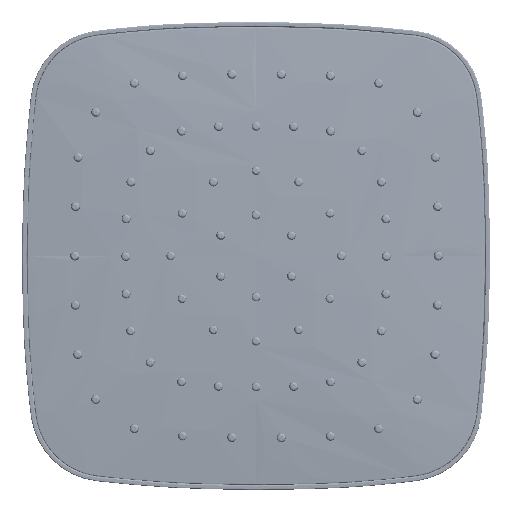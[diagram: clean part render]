
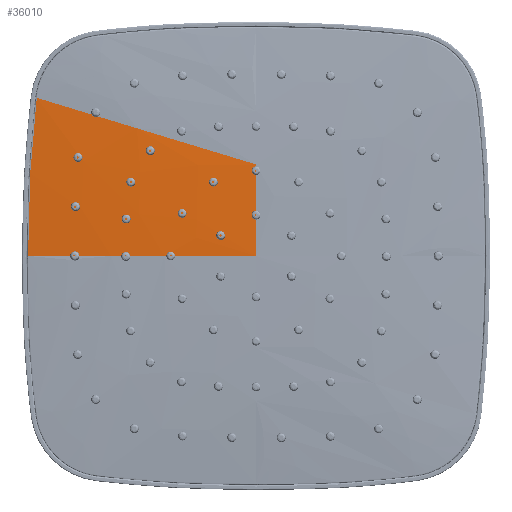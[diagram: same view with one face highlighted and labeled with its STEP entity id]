
A CAD part, front view. The second image highlights one B-rep face of the part: STEP entity #36010.
In plain terms, the highlighted free-form (B-spline) face has degree [3, 3] with [6, 4] control points.
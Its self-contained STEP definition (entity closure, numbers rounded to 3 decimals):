
#14912=CARTESIAN_POINT('',(-39.126,-3.567,
0.));
#15205=CARTESIAN_POINT('',(0.,-4.,0.));
#15206=CARTESIAN_POINT('',(0.,-4.,13.534));
#15207=CARTESIAN_POINT('',(0.,-3.891,
26.419));
#15208=CARTESIAN_POINT('',(0.,-3.567,
39.126));
#15480=DIRECTION('',(0.119,0.002,0.993));
#15481=VECTOR('',#15480,0.204);
#15482=CARTESIAN_POINT('',(-93.7,-0.201,
67.4));
#15483=LINE('',#15482,#15481);
#15487=CARTESIAN_POINT('',(-93.676,-0.2,
67.602));
#15488=CARTESIAN_POINT('',(-86.376,-0.765,
65.42));
#15489=CARTESIAN_POINT('',(-71.153,-1.766,
60.803));
#15490=CARTESIAN_POINT('',(-40.348,-3.102,
51.312));
#15491=CARTESIAN_POINT('',(-16.534,-3.442,
44.));
#15492=CARTESIAN_POINT('',(0.,-3.567,
39.126));
#15497=CARTESIAN_POINT('',(0.,-4.,0.));
#15498=CARTESIAN_POINT('',(-13.534,-4.,0.));
#15499=CARTESIAN_POINT('',(-26.419,-3.891,
0.));
#15500=CARTESIAN_POINT('',(-39.126,-3.567,
0.));
#15505=CARTESIAN_POINT('',(-97.385,-0.244,
0.));
#15506=CARTESIAN_POINT('',(-97.385,-0.244,
3.95));
#15507=CARTESIAN_POINT('',(-97.318,-0.243,
12.648));
#15508=CARTESIAN_POINT('',(-96.956,-0.239,
26.113));
#15509=CARTESIAN_POINT('',(-96.24,-0.231,
40.311));
#15510=CARTESIAN_POINT('',(-95.177,-0.219,
54.088));
#15511=CARTESIAN_POINT('',(-94.225,-0.207,
63.083));
#15512=CARTESIAN_POINT('',(-93.7,-0.201,
67.4));
#15537=CARTESIAN_POINT('',(-61.935,-2.728,
0.));
#15538=CARTESIAN_POINT('',(-60.033,-2.821,
0.));
#15539=CARTESIAN_POINT('',(-56.234,-2.995,
0.));
#15540=CARTESIAN_POINT('',(-50.541,-3.22,
0.));
#15541=CARTESIAN_POINT('',(-44.842,-3.411,
0.));
#15542=CARTESIAN_POINT('',(-41.034,-3.518,
0.));
#15543=CARTESIAN_POINT('',(-39.126,-3.567,
0.));
#16385=CARTESIAN_POINT('',(-97.385,-0.244,
0.));
#16386=CARTESIAN_POINT('',(-91.745,-0.762,
0.));
#16387=CARTESIAN_POINT('',(-79.807,-1.731,
0.));
#16388=CARTESIAN_POINT('',(-68.153,-2.424,
0.));
#16389=CARTESIAN_POINT('',(-61.935,-2.728,
0.));
#33504=VERTEX_POINT('',#14912);
#33505=VERTEX_POINT('',#15497);
#33533=VERTEX_POINT('',#15208);
#33544=VERTEX_POINT('',#15487);
#33551=CARTESIAN_POINT('',(-93.7,-0.201,
67.4));
#33552=VERTEX_POINT('',#33551);
#33555=VERTEX_POINT('',#15537);
#33556=VERTEX_POINT('',#16385);
#35973=CARTESIAN_POINT('',(0.,-4.,0.));
#35974=CARTESIAN_POINT('',(0.,-4.,
13.534));
#35975=CARTESIAN_POINT('',(0.,-3.891,
26.419));
#35976=CARTESIAN_POINT('',(0.,-3.567,
39.126));
#35977=CARTESIAN_POINT('',(-17.477,-4.,0.));
#35978=CARTESIAN_POINT('',(-17.373,-4.,
14.935));
#35979=CARTESIAN_POINT('',(-17.112,-3.866,
29.565));
#35980=CARTESIAN_POINT('',(-16.534,-3.442,
44.));
#35981=CARTESIAN_POINT('',(-42.068,-3.726,
0.));
#35982=CARTESIAN_POINT('',(-42.02,-3.729,
17.037));
#35983=CARTESIAN_POINT('',(-41.58,-3.582,
34.285));
#35984=CARTESIAN_POINT('',(-40.348,-3.102,
51.312));
#35985=CARTESIAN_POINT('',(-73.829,-2.176,
0.));
#35986=CARTESIAN_POINT('',(-73.881,-2.173,
19.767));
#35987=CARTESIAN_POINT('',(-73.231,-2.074,
40.411));
#35988=CARTESIAN_POINT('',(-71.173,-1.765,
60.809));
#35989=CARTESIAN_POINT('',(-89.695,-0.95,
0.));
#35990=CARTESIAN_POINT('',(-89.737,-0.946,
21.096));
#35991=CARTESIAN_POINT('',(-88.93,-0.9,
43.392));
#35992=CARTESIAN_POINT('',(-86.417,-0.762,
65.432));
#35993=CARTESIAN_POINT('',(-97.385,-0.244,
0.));
#35994=CARTESIAN_POINT('',(-97.396,-0.243,
21.725));
#35995=CARTESIAN_POINT('',(-96.49,-0.231,
44.804));
#35996=CARTESIAN_POINT('',(-93.738,-0.196,
67.621));
#35997=B_SPLINE_SURFACE_WITH_KNOTS('',3,3,((#35973,#35974,#35975,#35976),
(#35977,#35978,#35979,#35980),(#35981,#35982,#35983,#35984),(#35985,#35986,
#35987,#35988),(#35989,#35990,#35991,#35992),(#35993,#35994,#35995,#35996)),
.UNSPECIFIED.,.F.,.F.,.F.,(4,1,1,4),(4,4),(0.,0.5,0.75,
0.975),(0.,0.387),.UNSPECIFIED.);
#35998=ORIENTED_EDGE('',*,*,#35963,.T.);
#35999=ORIENTED_EDGE('',*,*,#35778,.T.);
#36000=ORIENTED_EDGE('',*,*,#35576,.F.);
#36001=ORIENTED_EDGE('',*,*,#35244,.T.);
#36003=ORIENTED_EDGE('',*,*,#36002,.F.);
#36005=ORIENTED_EDGE('',*,*,#36004,.F.);
#36007=ORIENTED_EDGE('',*,*,#36006,.T.);
#36008=EDGE_LOOP('',(#35998,#35999,#36000,#36001,#36003,#36005,#36007));
#36009=FACE_OUTER_BOUND('',#36008,.F.);
#36010=ADVANCED_FACE('',(#36009),#35997,.F.);
#15209=B_SPLINE_CURVE_WITH_KNOTS('',3,(#15205,#15206,#15207,#15208),
.UNSPECIFIED.,.F.,.F.,(4,4),(0.,1.),.UNSPECIFIED.);
#15493=B_SPLINE_CURVE_WITH_KNOTS('',3,(#15487,#15488,#15489,#15490,#15491,
#15492),.UNSPECIFIED.,.F.,.F.,(4,1,1,4),(0.,0.23,
0.487,1.),.UNSPECIFIED.);
#15501=B_SPLINE_CURVE_WITH_KNOTS('',3,(#15497,#15498,#15499,#15500),
.UNSPECIFIED.,.F.,.F.,(4,4),(0.,1.),.UNSPECIFIED.);
#15513=B_SPLINE_CURVE_WITH_KNOTS('',3,(#15505,#15506,#15507,#15508,#15509,
#15510,#15511,#15512),.UNSPECIFIED.,.F.,.F.,(4,1,1,1,1,4),(0.,
0.175,0.386,0.598,0.807,1.),
.UNSPECIFIED.);
#15544=B_SPLINE_CURVE_WITH_KNOTS('',3,(#15537,#15538,#15539,#15540,#15541,
#15542,#15543),.UNSPECIFIED.,.F.,.F.,(4,1,1,1,4),(0.,0.25,
0.5,0.75,1.),.UNSPECIFIED.);
#16390=B_SPLINE_CURVE_WITH_KNOTS('',3,(#16385,#16386,#16387,#16388,#16389),
.UNSPECIFIED.,.F.,.F.,(4,1,4),(0.,0.464,1.),.UNSPECIFIED.);
#35244=EDGE_CURVE('',#33505,#33504,#15501,.T.);
#35576=EDGE_CURVE('',#33505,#33533,#15209,.T.);
#35778=EDGE_CURVE('',#33544,#33533,#15493,.T.);
#35963=EDGE_CURVE('',#33552,#33544,#15483,.T.);
#36002=EDGE_CURVE('',#33555,#33504,#15544,.T.);
#36004=EDGE_CURVE('',#33556,#33555,#16390,.T.);
#36006=EDGE_CURVE('',#33556,#33552,#15513,.T.);
